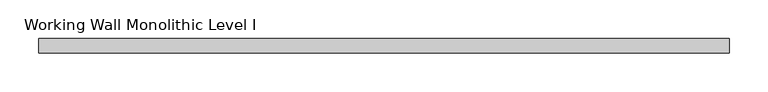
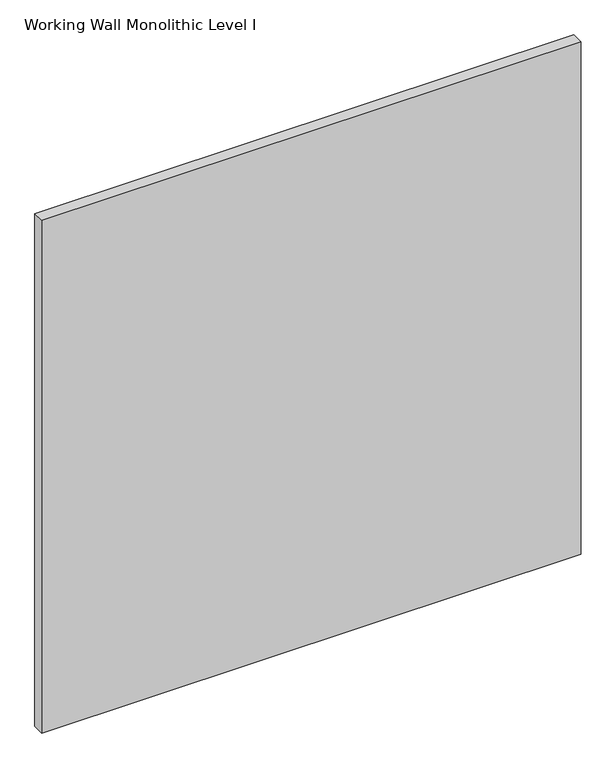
"""IFC4 building model written with IfcOpenShell, lengths in millimetres: proxy geometry, Panel-Fascia-Teknion-Altos-Standard : Working Wall Monolithic Level I."""

import ifcopenshell
import ifcopenshell.guid

model = None  # the IFC model being written
_history = None  # IfcOwnerHistory: only IFC2X3 demands one
_inside = {}  # id of a spatial element -> (the spatial element, [elements in it])
_under = {}  # id of a project, library or spatial element -> (it, [spatial elements below it])
_declared = {}  # id of a project -> (the project, [libraries it declares])
_typed = {}  # id of a type object -> (the type object, [elements of that type])
_made_of = {}  # id of a material, layer set ... -> (it, [elements and type objects made of it])


def new_model(schema):
    """Start an empty IFC model of exactly this schema.

    Asked for "IFC4X3", IfcOpenShell would pick the latest addendum, in which some entities
    have other attributes; the version numbers below select the first issue.
    IFC2X3 requires an IfcOwnerHistory on every rooted entity: one is made here for all.
    """
    global model, _history
    if schema == "IFC4X3":
        model = ifcopenshell.file(schema_version=(4, 3, 0, 0))
    else:
        model = ifcopenshell.file(schema=schema)
    _inside.clear()
    _under.clear()
    _declared.clear()
    _typed.clear()
    _made_of.clear()
    _history = None
    if model.schema == "IFC2X3":
        org = make("IfcOrganization", Name="unknown")
        user = make(
            "IfcPersonAndOrganization",
            ThePerson=make("IfcPerson", FamilyName="unknown"),
            TheOrganization=org,
        )
        app = make(
            "IfcApplication",
            ApplicationDeveloper=org,
            Version="unknown",
            ApplicationFullName="unknown",
            ApplicationIdentifier="unknown",
        )
        _history = make(
            "IfcOwnerHistory",
            OwningUser=user,
            OwningApplication=app,
            ChangeAction="ADDED",
            CreationDate=0,
        )
    return model


def make(cls, **values):
    """One entity of the class cls with the attributes given. An attribute that is None is left unset."""
    return model.create_entity(
        cls, **{name: value for name, value in values.items() if value is not None}
    )


def rooted(cls, **values):
    """An entity with a GlobalId (a new one), such as an element, a storey or a relation."""
    return make(cls, GlobalId=ifcopenshell.guid.new(), OwnerHistory=_history, **values)


def si_unit(unit_type, name, prefix=None):
    """IfcSIUnit, for example si_unit("LENGTHUNIT", "METRE", prefix="MILLI")."""
    return make("IfcSIUnit", UnitType=unit_type, Prefix=prefix, Name=name)


def assignment(units):
    """IfcUnitAssignment: the units of a project."""
    return None if units is None else make("IfcUnitAssignment", Units=units)


def point(xyz):
    """IfcCartesianPoint."""
    return None if xyz is None else make("IfcCartesianPoint", Coordinates=xyz)


def direction(xyz):
    """IfcDirection."""
    return None if xyz is None else make("IfcDirection", DirectionRatios=xyz)


def frame(location, z_axis=None, x_axis=None):
    """IfcAxis2Placement3D, a coordinate frame: its origin and axes. An axis left out is left unset."""
    return make(
        "IfcAxis2Placement3D",
        Location=point(location),
        Axis=direction(z_axis),
        RefDirection=direction(x_axis),
    )


def origin():
    """The frame at (0, 0, 0) with its axes left unset."""
    return frame((0.0, 0.0, 0.0))


def place(relative_to, where):
    """IfcLocalPlacement: puts the frame where relative to a parent placement (None: the world)."""
    return make(
        "IfcLocalPlacement", PlacementRelTo=relative_to, RelativePlacement=where
    )


def context(
    kind, dimensions, precision=None, world=None, true_north=None, identifier=None
):
    """IfcGeometricRepresentationContext, for example the 3D "Model" context."""
    return make(
        "IfcGeometricRepresentationContext",
        ContextIdentifier=identifier,
        ContextType=kind,
        CoordinateSpaceDimension=dimensions,
        Precision=precision,
        WorldCoordinateSystem=world,
        TrueNorth=true_north,
    )


def project(units=None, contexts=None):
    """IfcProject with its units and contexts."""
    return rooted(
        "IfcProject",
        Name="project",
        RepresentationContexts=contexts,
        UnitsInContext=assignment(units),
    )


def spatial(cls, under=None, at=None, **own):
    """A site, building, storey or space (cls), placed at a placement, below another one or the project."""
    s = rooted(cls, ObjectPlacement=at, **own)
    if under is not None:
        _under.setdefault(under.id(), (under, []))[1].append(s)
    return s


def polyline(points):
    """IfcPolyline through the points."""
    return make("IfcPolyline", Points=[point(p) for p in points])


def outline(outer, holes=None, kind="AREA"):
    """IfcArbitraryClosedProfileDef: a profile drawn as a closed curve; with holes, ...WithVoids."""
    if holes is None:
        return make("IfcArbitraryClosedProfileDef", ProfileType=kind, OuterCurve=outer)
    return make(
        "IfcArbitraryProfileDefWithVoids",
        ProfileType=kind,
        OuterCurve=outer,
        InnerCurves=holes,
    )


def extrude(swept, where, along, depth):
    """IfcExtrudedAreaSolid: the profile swept, set in the frame where, extruded along a direction by depth."""
    return make(
        "IfcExtrudedAreaSolid",
        SweptArea=swept,
        Position=where,
        ExtrudedDirection=direction(along),
        Depth=depth,
    )


def shape(context_of_items, identifier, shape_type, items):
    """IfcShapeRepresentation: the items that make up one representation, for example the "Body"."""
    return make(
        "IfcShapeRepresentation",
        ContextOfItems=context_of_items,
        RepresentationIdentifier=identifier,
        RepresentationType=shape_type,
        Items=items,
    )


def source(mapping_origin, context_of_items, identifier, shape_type, items):
    """IfcRepresentationMap: a shape defined once, which mapped items show again and again."""
    return make(
        "IfcRepresentationMap",
        MappingOrigin=mapping_origin,
        MappedRepresentation=shape(context_of_items, identifier, shape_type, items),
    )


def transform(
    local_origin,
    x_axis=None,
    y_axis=None,
    z_axis=None,
    scale=None,
    scale2=None,
    scale3=None,
    uniform=True,
):
    """IfcCartesianTransformationOperator3D, or its non-uniform kind. x_axis, y_axis, z_axis: its Axis1, 2, 3."""
    if uniform:
        return make(
            "IfcCartesianTransformationOperator3D",
            Axis1=direction(x_axis),
            Axis2=direction(y_axis),
            LocalOrigin=point(local_origin),
            Scale=scale,
            Axis3=direction(z_axis),
        )
    return make(
        "IfcCartesianTransformationOperator3DnonUniform",
        Axis1=direction(x_axis),
        Axis2=direction(y_axis),
        LocalOrigin=point(local_origin),
        Scale=scale,
        Axis3=direction(z_axis),
        Scale2=scale2,
        Scale3=scale3,
    )


def mapped(mapping_source, mapping_target):
    """IfcMappedItem: shows the shape of a source again, moved by a transform."""
    return make(
        "IfcMappedItem", MappingSource=mapping_source, MappingTarget=mapping_target
    )


def made_of(thing, what):
    """Note that an element or type object is made of a material, layer set ...; save() writes the relation."""
    if what is not None:
        _made_of.setdefault(what.id(), (what, []))[1].append(thing)
    return thing


def element(
    cls,
    number,
    at=None,
    inside=None,
    cuts=None,
    type_object=None,
    material=None,
    context=None,
    identifier="Body",
    shape_type=None,
    held_by="IfcProductDefinitionShape",
    body=None,
    shapes=None,
    **own,
):
    """One element of the class cls, such as IfcWall. Its Tag is "e" and its number.

    at: its placement. inside: the storey or other place that contains it. cuts: it is an
    opening in that element (IfcRelVoidsElement). A single representation is given by context,
    identifier, shape_type and body (its items); several are given by shapes. held_by: the class
    of the entity that holds the representations. save() writes the other relations.
    """
    e = rooted(cls, Tag="e%d" % number, ObjectPlacement=at, **own)
    if body is not None:
        shapes = [shape(context, identifier, shape_type, body)]
    if shapes is not None:
        e.Representation = make(held_by, Representations=shapes)
    if inside is not None:
        _inside.setdefault(inside.id(), (inside, []))[1].append(e)
    if cuts is not None:
        rooted(
            "IfcRelVoidsElement", RelatingBuildingElement=cuts, RelatedOpeningElement=e
        )
    if type_object is not None:
        _typed.setdefault(type_object.id(), (type_object, []))[1].append(e)
    return made_of(e, material)


def aggregate(whole, parts):
    """IfcRelAggregates: a whole, such as a stair, and the parts it consists of."""
    return rooted("IfcRelAggregates", RelatingObject=whole, RelatedObjects=parts)


def save(model, path):
    """Write the relations noted so far, then the file.

    IfcRelAggregates (storeys below a building ...), IfcRelContainedInSpatialStructure (elements
    in a storey), IfcRelDefinesByType, IfcRelAssociatesMaterial and IfcRelDeclares: one each for
    every whole, place, type object, material and project.
    """
    for whole, parts in _under.values():
        aggregate(whole, parts)
    for where, things in _inside.values():
        rooted(
            "IfcRelContainedInSpatialStructure",
            RelatedElements=things,
            RelatingStructure=where,
        )
    for kind, things in _typed.values():
        rooted("IfcRelDefinesByType", RelatedObjects=things, RelatingType=kind)
    for what, things in _made_of.values():
        rooted("IfcRelAssociatesMaterial", RelatedObjects=things, RelatingMaterial=what)
    for by, libraries in _declared.values():
        rooted("IfcRelDeclares", RelatingContext=by, RelatedDefinitions=libraries)
    model.write(path)


def working_wall_monolithic_level_i_49ea217e(model_context):
    return source(origin(), model_context, "Body", "SweptSolid", [
        extrude(outline(polyline([(447.0356344, -9.525), (-447.0356344, -9.525), (-447.0356344, 9.525), (447.0356344, 9.525), (447.0356344, -9.525)])), frame((0.0, 0.0, 3.175), z_axis=(0.0, 0.0, 1.0), x_axis=(1.0, 0.0, 0.0)), (0.0, 0.0, 1.0), 898.525),
    ])


if __name__ == "__main__":
    model = new_model("IFC4")
    model_context = context("Model", 3, world=origin())
    ifc_project = project(units=[si_unit("LENGTHUNIT", "METRE", prefix="MILLI")], contexts=[model_context])
    site = spatial("IfcSite", under=ifc_project)
    building = spatial("IfcBuilding", under=site)
    placement = place(None, origin())
    working_wall_monolithic_level_i_shape = working_wall_monolithic_level_i_49ea217e(model_context)
    element("IfcBuildingElementProxy", 1, Name="Panel-Fascia-Teknion-Altos-Standard : Working Wall Monolithic Level I", ObjectType="Panel-Fascia-Teknion-Altos-Standard : Working Wall Monolithic Level I", at=placement, inside=building, context=model_context, shape_type="MappedRepresentation", body=[
        mapped(working_wall_monolithic_level_i_shape, transform((0.0, 0.0, 0.0), x_axis=(1.0, 0.0, 0.0), y_axis=(0.0, 1.0, 0.0), z_axis=(0.0, 0.0, 1.0))),
    ])
    save(model, "model.ifc")
